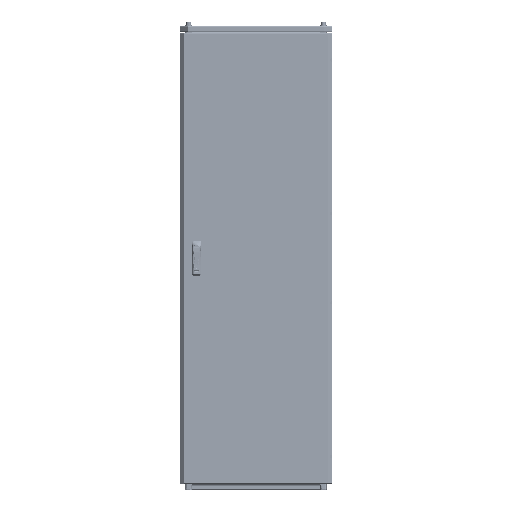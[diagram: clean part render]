
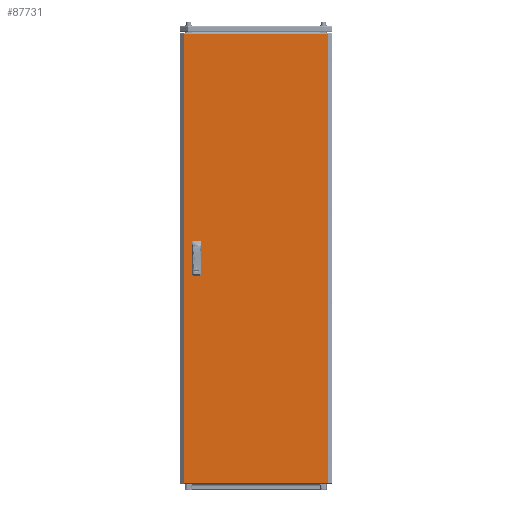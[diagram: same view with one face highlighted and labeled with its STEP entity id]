
A CAD part, top view. The second image highlights one B-rep face of the part: STEP entity #87731.
In plain terms, the highlighted planar face has unit normal (0, 0, 1).
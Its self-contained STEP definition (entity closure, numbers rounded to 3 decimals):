
#1388 = EDGE_CURVE ( 'NONE', #78529, #121736, #211858, .T. ) ;
#3481 = FACE_OUTER_BOUND ( 'NONE', #168197, .T. ) ;
#4630 = ORIENTED_EDGE ( 'NONE', *, *, #45878, .T. ) ;
#10837 = EDGE_CURVE ( 'NONE', #162593, #176770, #131863, .T. ) ;
#20370 = ORIENTED_EDGE ( 'NONE', *, *, #123522, .F. ) ;
#20873 = CARTESIAN_POINT ( 'NONE',  ( -242.5, -12.5, 0. ) ) ;
#27986 = VECTOR ( 'NONE', #185629, 1000. ) ;
#29121 = DIRECTION ( 'NONE',  ( 0., -1., 0. ) ) ;
#34622 = CARTESIAN_POINT ( 'NONE',  ( -242.5, -12.5, 0. ) ) ;
#40637 = EDGE_CURVE ( 'NONE', #42272, #68471, #200131, .T. ) ;
#41441 = EDGE_LOOP ( 'NONE', ( #178941, #126034, #77799, #160420 ) ) ;
#42272 = VERTEX_POINT ( 'NONE', #147326 ) ;
#43796 = CARTESIAN_POINT ( 'NONE',  ( -217.5, 62.5, 0. ) ) ;
#45878 = EDGE_CURVE ( 'NONE', #139788, #78529, #62341, .T. ) ;
#47437 = VECTOR ( 'NONE', #174891, 1000. ) ;
#61106 = VECTOR ( 'NONE', #81698, 1000. ) ;
#62341 = LINE ( 'NONE', #229487, #66115 ) ;
#66057 = VERTEX_POINT ( 'NONE', #114180 ) ;
#66115 = VECTOR ( 'NONE', #135204, 1000. ) ;
#66397 = DIRECTION ( 'NONE',  ( 0., 1., 0. ) ) ;
#68471 = VERTEX_POINT ( 'NONE', #34622 ) ;
#70118 = ORIENTED_EDGE ( 'NONE', *, *, #126837, .F. ) ;
#74215 = DIRECTION ( 'NONE',  ( 0., -1., 0. ) ) ;
#77799 = ORIENTED_EDGE ( 'NONE', *, *, #153854, .F. ) ;
#78529 = VERTEX_POINT ( 'NONE', #146861 ) ;
#78589 = LINE ( 'NONE', #115605, #174411 ) ;
#80912 = EDGE_CURVE ( 'NONE', #176770, #233690, #119910, .T. ) ;
#81698 = DIRECTION ( 'NONE',  ( 0., -1., 0. ) ) ;
#83387 = CARTESIAN_POINT ( 'NONE',  ( -217.5, 12.5, 0. ) ) ;
#83515 = VECTOR ( 'NONE', #29121, 1000. ) ;
#87731 = ADVANCED_FACE ( 'NONE', ( #167156, #185074, #3481 ), #156026, .F. ) ;
#89897 = ORIENTED_EDGE ( 'NONE', *, *, #1388, .T. ) ;
#94082 = VERTEX_POINT ( 'NONE', #190668 ) ;
#103147 = LINE ( 'NONE', #232120, #83515 ) ;
#103516 = EDGE_CURVE ( 'NONE', #201784, #42272, #195377, .T. ) ;
#107032 = DIRECTION ( 'NONE',  ( -1., 0., 0. ) ) ;
#109989 = DIRECTION ( 'NONE',  ( 0., 1., 0. ) ) ;
#112407 = CARTESIAN_POINT ( 'NONE',  ( -242.5, 12.5, 0. ) ) ;
#112865 = DIRECTION ( 'NONE',  ( -1., 0., 0. ) ) ;
#114180 = CARTESIAN_POINT ( 'NONE',  ( 277.875, -869.5, 0. ) ) ;
#114385 = CARTESIAN_POINT ( 'NONE',  ( 277.875, 869.5, 0. ) ) ;
#115605 = CARTESIAN_POINT ( 'NONE',  ( -277.875, -869.5, 0. ) ) ;
#118157 = CARTESIAN_POINT ( 'NONE',  ( -242.5, -62.5, 0. ) ) ;
#118967 = DIRECTION ( 'NONE',  ( 0., 0., -1. ) ) ;
#119910 = LINE ( 'NONE', #192824, #47437 ) ;
#121736 = VERTEX_POINT ( 'NONE', #135349 ) ;
#122220 = CARTESIAN_POINT ( 'NONE',  ( -277.875, -869.5, 0. ) ) ;
#123522 = EDGE_CURVE ( 'NONE', #233690, #94082, #215759, .T. ) ;
#126034 = ORIENTED_EDGE ( 'NONE', *, *, #103516, .F. ) ;
#126837 = EDGE_CURVE ( 'NONE', #94082, #162593, #223520, .T. ) ;
#127958 = LINE ( 'NONE', #200809, #190536 ) ;
#131093 = ORIENTED_EDGE ( 'NONE', *, *, #142691, .T. ) ;
#131863 = LINE ( 'NONE', #204707, #27986 ) ;
#133488 = VECTOR ( 'NONE', #112865, 1000. ) ;
#134547 = CARTESIAN_POINT ( 'NONE',  ( -242.5, 12.5, 0. ) ) ;
#134734 = DIRECTION ( 'NONE',  ( 1., 0., 0. ) ) ;
#135204 = DIRECTION ( 'NONE',  ( -1., 0., 0. ) ) ;
#135349 = CARTESIAN_POINT ( 'NONE',  ( -277.875, -869.5, 0. ) ) ;
#136130 = DIRECTION ( 'NONE',  ( 1., 0., 0. ) ) ;
#137560 = EDGE_CURVE ( 'NONE', #68471, #168615, #103147, .T. ) ;
#139788 = VERTEX_POINT ( 'NONE', #114385 ) ;
#139830 = CARTESIAN_POINT ( 'NONE',  ( -242.5, -62.5, 0. ) ) ;
#140536 = AXIS2_PLACEMENT_3D ( 'NONE', #148075, #118967, #172776 ) ;
#142691 = EDGE_CURVE ( 'NONE', #121736, #66057, #78589, .T. ) ;
#143374 = VECTOR ( 'NONE', #107032, 1000. ) ;
#145186 = ORIENTED_EDGE ( 'NONE', *, *, #80912, .F. ) ;
#146861 = CARTESIAN_POINT ( 'NONE',  ( -277.875, 869.5, 0. ) ) ;
#147326 = CARTESIAN_POINT ( 'NONE',  ( -217.5, -12.5, 0. ) ) ;
#148075 = CARTESIAN_POINT ( 'NONE',  ( 0., 0., 0. ) ) ;
#149785 = VECTOR ( 'NONE', #136130, 1000. ) ;
#149882 = EDGE_LOOP ( 'NONE', ( #20370, #145186, #152907, #70118 ) ) ;
#152907 = ORIENTED_EDGE ( 'NONE', *, *, #10837, .F. ) ;
#153854 = EDGE_CURVE ( 'NONE', #168615, #201784, #174314, .T. ) ;
#156026 = PLANE ( 'NONE',  #140536 ) ;
#157190 = CARTESIAN_POINT ( 'NONE',  ( -217.5, -62.5, 0. ) ) ;
#160420 = ORIENTED_EDGE ( 'NONE', *, *, #137560, .F. ) ;
#162593 = VERTEX_POINT ( 'NONE', #134547 ) ;
#167156 = FACE_BOUND ( 'NONE', #149882, .T. ) ;
#168197 = EDGE_LOOP ( 'NONE', ( #223810, #4630, #89897, #131093 ) ) ;
#168615 = VERTEX_POINT ( 'NONE', #139830 ) ;
#172776 = DIRECTION ( 'NONE',  ( -1., 0., 0. ) ) ;
#172979 = VECTOR ( 'NONE', #74215, 1000. ) ;
#174314 = LINE ( 'NONE', #118157, #149785 ) ;
#174411 = VECTOR ( 'NONE', #134734, 1000. ) ;
#174891 = DIRECTION ( 'NONE',  ( 0., 1., 0. ) ) ;
#176770 = VERTEX_POINT ( 'NONE', #83387 ) ;
#178941 = ORIENTED_EDGE ( 'NONE', *, *, #40637, .F. ) ;
#185074 = FACE_BOUND ( 'NONE', #41441, .T. ) ;
#185629 = DIRECTION ( 'NONE',  ( 1., 0., 0. ) ) ;
#190536 = VECTOR ( 'NONE', #109989, 1000. ) ;
#190668 = CARTESIAN_POINT ( 'NONE',  ( -242.5, 62.5, 0. ) ) ;
#192824 = CARTESIAN_POINT ( 'NONE',  ( -217.5, 12.5, 0. ) ) ;
#195377 = LINE ( 'NONE', #157190, #221204 ) ;
#200131 = LINE ( 'NONE', #20873, #133488 ) ;
#200133 = CARTESIAN_POINT ( 'NONE',  ( -217.5, -62.5, 0. ) ) ;
#200809 = CARTESIAN_POINT ( 'NONE',  ( 277.875, -869.5, 0. ) ) ;
#201784 = VERTEX_POINT ( 'NONE', #200133 ) ;
#204707 = CARTESIAN_POINT ( 'NONE',  ( -242.5, 12.5, 0. ) ) ;
#211858 = LINE ( 'NONE', #122220, #61106 ) ;
#215759 = LINE ( 'NONE', #234844, #143374 ) ;
#221204 = VECTOR ( 'NONE', #66397, 1000. ) ;
#223520 = LINE ( 'NONE', #112407, #172979 ) ;
#223810 = ORIENTED_EDGE ( 'NONE', *, *, #224613, .T. ) ;
#224613 = EDGE_CURVE ( 'NONE', #66057, #139788, #127958, .T. ) ;
#229487 = CARTESIAN_POINT ( 'NONE',  ( -277.875, 869.5, 0. ) ) ;
#232120 = CARTESIAN_POINT ( 'NONE',  ( -242.5, -62.5, 0. ) ) ;
#233690 = VERTEX_POINT ( 'NONE', #43796 ) ;
#234844 = CARTESIAN_POINT ( 'NONE',  ( -242.5, 62.5, 0. ) ) ;
